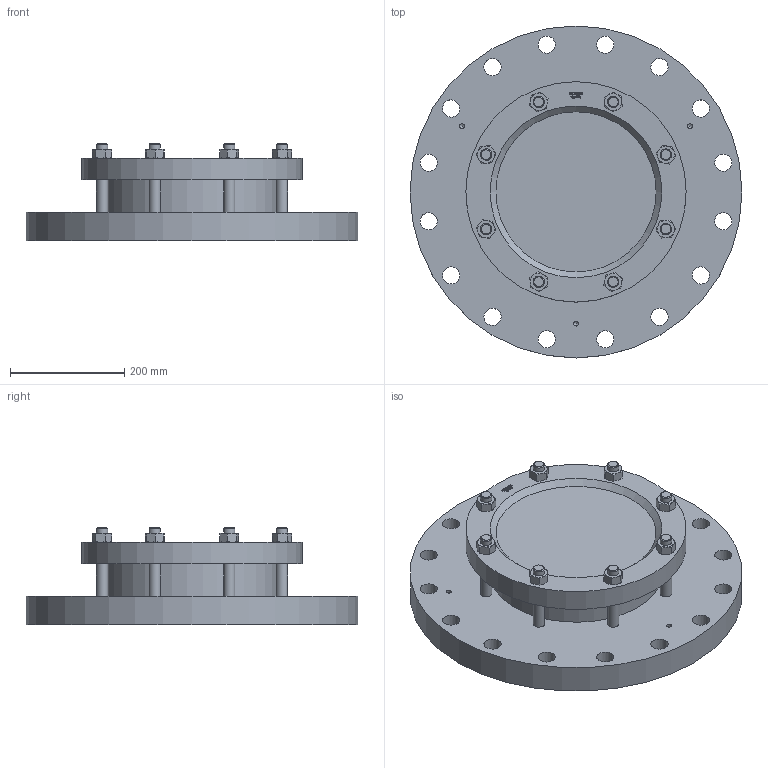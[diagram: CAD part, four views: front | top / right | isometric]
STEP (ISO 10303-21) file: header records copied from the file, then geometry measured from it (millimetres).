
FILE_DESCRIPTION(/* description */ (''),/* implementation_level */ '2;1');
FILE_NAME(/* name */ 'W:\Konstruktion_ACI\325\_STEP\325-400-16.stp',/* time_stamp */ '2022-03-02T17:09:56+01:00',/* author */ ('koslowksi'),/* organization */ (''),/* preprocessor_version */ 'ST-DEVELOPER v16.1',/* originating_system */ 'Autodesk Inventor 2016',/* authorisation */ '');
FILE_SCHEMA (('AUTOMOTIVE_DESIGN { 1 0 10303 214 3 1 1 }'));
Length unit declared in the file: millimetre
Products named in the file (1): 325-400-16
Bounding box: 580 x 580 x 170 mm (x, y, z)
Volume: 20733098.4 mm3; surface area: 906681.3 mm2
Topology: 1 solids, 1 shells, 453 faces, 1156 edges, 743 vertices
Faces by surface type: plane 199, cone 108, bspline 108, cylinder 38
Full cylindrical faces by diameter (mm): 8.376 x3, 20 x16, 30 x16, 304 x1, 385 x1, 580 x1
Entity records: 14010 total; most frequent: CARTESIAN_POINT 4037, ORIENTED_EDGE 2158, DIRECTION 1545, EDGE_CURVE 1079, VERTEX_POINT 716, EDGE_LOOP 589, AXIS2_PLACEMENT_3D 528, LINE 489
